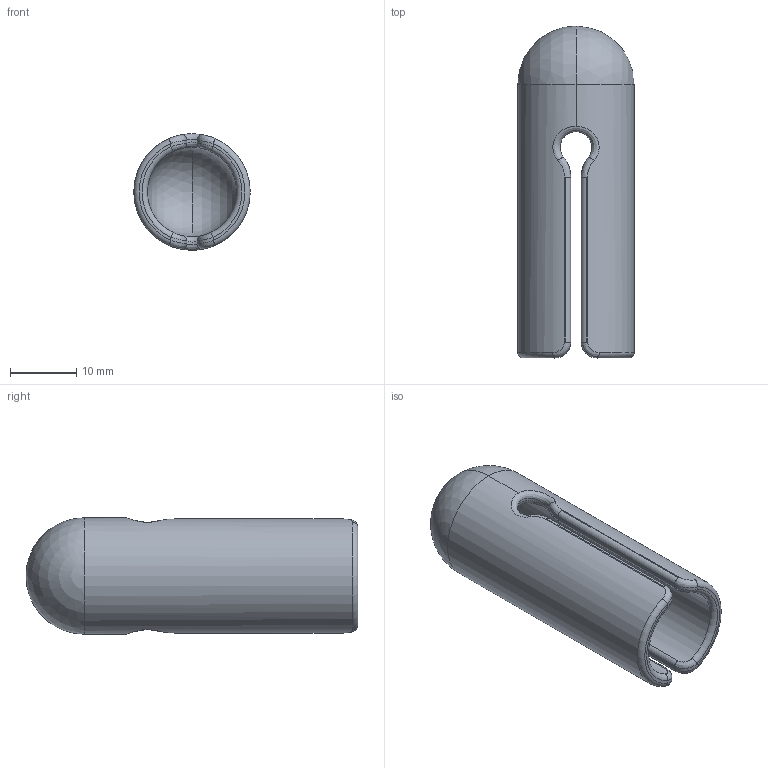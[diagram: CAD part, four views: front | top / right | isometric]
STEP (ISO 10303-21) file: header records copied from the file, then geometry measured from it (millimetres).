
FILE_DESCRIPTION (( 'STEP AP203' ), '1' );
FILE_NAME ('Finger splint Size 7.STEP', '2018-02-19T16:28:10', ( '' ), ( '' ), 'SwSTEP 2.0', 'SolidWorks 2015', '' );
FILE_SCHEMA (( 'CONFIG_CONTROL_DESIGN' ));
Length unit declared in the file: inch
Products named in the file (1): Finger splint Size 7
Bounding box: 17.56 x 50.05 x 17.56 mm (x, y, z)
Volume: 4534.3 mm3; surface area: 4771.3 mm2
Topology: 1 solids, 1 shells, 62 faces, 154 edges, 90 vertices
Faces by surface type: cylinder 28, bspline 20, plane 6, sphere 4, torus 4
Entity records: 3397 total; most frequent: CARTESIAN_POINT 2047, ORIENTED_EDGE 292, DIRECTION 232, EDGE_CURVE 146, AXIS2_PLACEMENT_3D 95, VERTEX_POINT 86, FACE_OUTER_BOUND 62, ADVANCED_FACE 62
